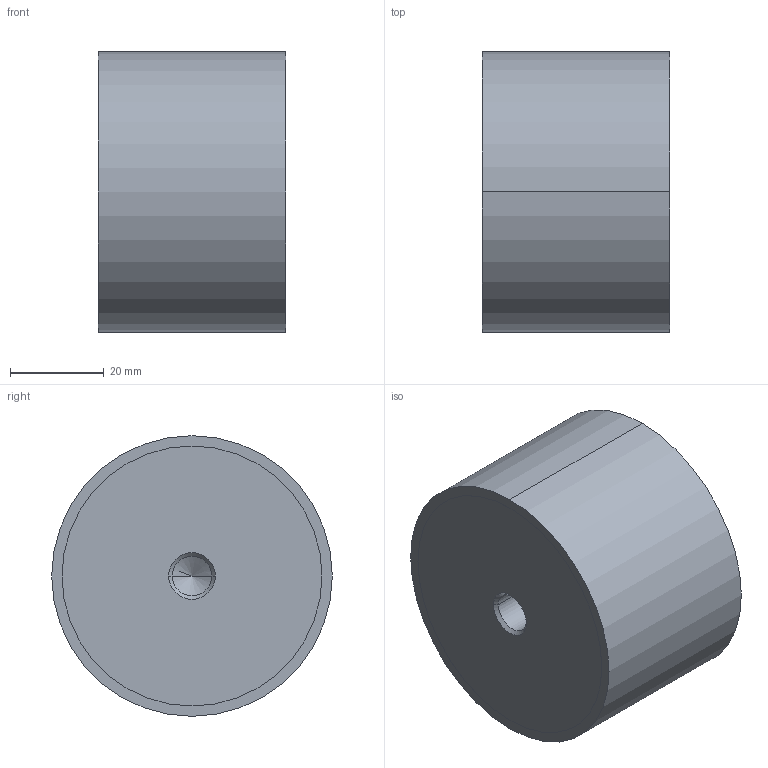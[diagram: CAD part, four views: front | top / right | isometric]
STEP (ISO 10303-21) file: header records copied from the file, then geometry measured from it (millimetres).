
FILE_DESCRIPTION (( 'STEP AP214' ), '1' );
FILE_NAME ('451-60-40-M10-EE-70.step', '2020-03-05T09:14:13', ( '' ), ( '' ), 'SwSTEP 2.0', 'SolidWorks 2019', '' );
FILE_SCHEMA (( 'AUTOMOTIVE_DESIGN' ));
Length unit declared in the file: millimetre
Products named in the file (1): 451-60-40-M10-EE-70
Bounding box: 40 x 60 x 60 mm (x, y, z)
Volume: 111802.9 mm3; surface area: 13728.9 mm2
Topology: 1 solids, 1 shells, 22 faces, 46 edges, 26 vertices
Faces by surface type: cylinder 10, cone 8, plane 4
Entity records: 684 total; most frequent: DIRECTION 112, CARTESIAN_POINT 91, ORIENTED_EDGE 84, AXIS2_PLACEMENT_3D 47, EDGE_CURVE 42, VERTEX_POINT 26, EDGE_LOOP 26, CIRCLE 24
